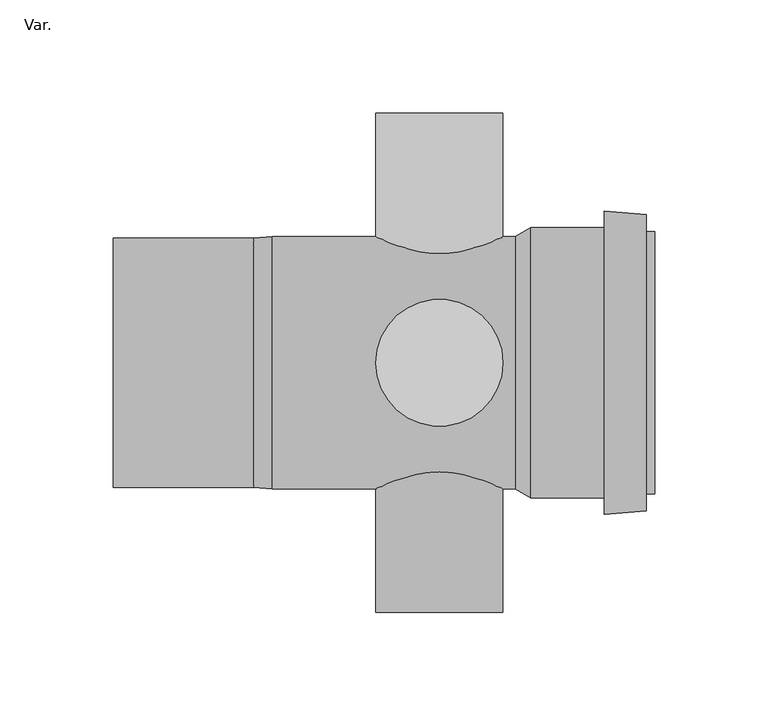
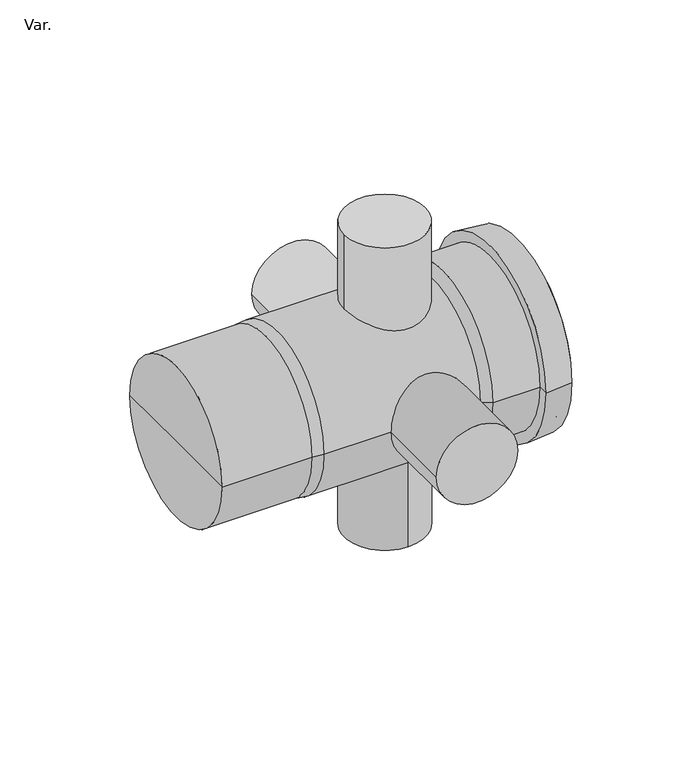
"""IFC4 building model written with IfcOpenShell, lengths in millimetres: pipe fitting geometry, NLRS_52_PIF_UN_HDPE 4-way riser_Akatherm : Var.."""

from ifc_helpers import new_model, si_unit, point, frame, origin, origin_with_axes, origin_2d, place, context, project, spatial, polyline, circle_curve, trimmed, segment, composite_curve, outline, extrude, source, transform, mapped, element, save
from ifc_brep_helpers import plane_surface, cylinder_surface, revolved_surface, advanced_brep


def var_f855ee73(model_context):
    return source(origin(), model_context, "Body", "SolidModel", [
        advanced_brep(
        [(91.2, -57.9, 0.0), (91.2, 57.9, 0.0), (94.9, 57.9, 0.0), (94.9, -57.9, 0.0), (91.2, -65.4, 0.0), (91.2, 65.4, 0.0), (72.6, -66.85, 0.0), (72.6, 66.85, 0.0), (72.6, -59.65, 0.0), (72.6, 59.65, 0.0), (40.3, -59.65, 0.0), (40.3, 59.65, 0.0), (-73.8, -55.75, 0.0), (-73.8, 55.75, 0.0), (33.5, 55.75, 0.0), (33.5, -55.75, 0.0), (-81.8, -55.0, 0.0), (-81.8, 55.0, 0.0), (-143.8, -55.0, 0.0), (-143.8, 55.0, 0.0), (-143.8, 0.0, 0.0), (94.9, 0.0, 0.0)],
        [
            (0, 1, circle_curve(frame((91.2, 0.0, 0.0), z_axis=(1.0, 0.0, 0.0), x_axis=(0.0, 1.0, 0.0)), 57.9)),
            (1, 2),
            (2, 3, circle_curve(frame((94.9, 0.0, 0.0), z_axis=(-1.0, 0.0, 0.0), x_axis=(0.0, 1.0, 0.0)), 57.9)),
            (3, 0),
            (1, 0, circle_curve(frame((91.2, 0.0, 0.0), z_axis=(1.0, 0.0, 0.0), x_axis=(0.0, 1.0, 0.0)), 57.9)),
            (3, 2, circle_curve(frame((94.9, 0.0, 0.0), z_axis=(-1.0, 0.0, 0.0), x_axis=(0.0, 1.0, 0.0)), 57.9)),
            (4, 5, circle_curve(frame((91.2, 0.0, 0.0), z_axis=(1.0, 0.0, 0.0), x_axis=(0.0, 1.0, 0.0)), 65.4)),
            (5, 1),
            (0, 4),
            (5, 4, circle_curve(frame((91.2, 0.0, 0.0), z_axis=(1.0, 0.0, 0.0), x_axis=(0.0, 1.0, 0.0)), 65.4)),
            (6, 7, circle_curve(frame((72.6, 0.0, 0.0), z_axis=(1.0, 0.0, 0.0), x_axis=(0.0, 1.0, 0.0)), 66.85)),
            (7, 5),
            (4, 6),
            (7, 6, circle_curve(frame((72.6, 0.0, 0.0), z_axis=(1.0, 0.0, 0.0), x_axis=(0.0, 1.0, 0.0)), 66.85)),
            (8, 9, circle_curve(frame((72.6, 0.0, 0.0), z_axis=(1.0, 0.0, 0.0), x_axis=(0.0, 1.0, 0.0)), 59.65)),
            (9, 7),
            (6, 8),
            (9, 8, circle_curve(frame((72.6, 0.0, 0.0), z_axis=(1.0, 0.0, 0.0), x_axis=(0.0, 1.0, 0.0)), 59.65)),
            (10, 11, circle_curve(frame((40.3, 0.0, 0.0), z_axis=(1.0, 0.0, 0.0), x_axis=(0.0, 1.0, 0.0)), 59.65)),
            (11, 9),
            (8, 10),
            (11, 10, circle_curve(frame((40.3, 0.0, 0.0), z_axis=(1.0, 0.0, 0.0), x_axis=(0.0, 1.0, 0.0)), 59.65)),
            (12, 13, circle_curve(frame((-73.8, 0.0, 0.0), z_axis=(1.0, 0.0, 0.0), x_axis=(0.0, 1.0, 0.0)), 55.75)),
            (13, 14),
            (14, 15, circle_curve(frame((33.5, 0.0, 0.0), z_axis=(-1.0, 0.0, 0.0), x_axis=(0.0, 1.0, 0.0)), 55.75)),
            (15, 12),
            (13, 12, circle_curve(frame((-73.8, 0.0, 0.0), z_axis=(1.0, 0.0, 0.0), x_axis=(0.0, 1.0, 0.0)), 55.75)),
            (15, 14, circle_curve(frame((33.5, 0.0, 0.0), z_axis=(-1.0, 0.0, 0.0), x_axis=(0.0, 1.0, 0.0)), 55.75)),
            (16, 17, circle_curve(frame((-81.8, 0.0, 0.0), z_axis=(1.0, 0.0, 0.0), x_axis=(0.0, 1.0, 0.0)), 55.0)),
            (17, 13),
            (12, 16),
            (17, 16, circle_curve(frame((-81.8, 0.0, 0.0), z_axis=(1.0, 0.0, 0.0), x_axis=(0.0, 1.0, 0.0)), 55.0)),
            (18, 19, circle_curve(frame((-143.8, 0.0, 0.0), z_axis=(1.0, 0.0, 0.0), x_axis=(0.0, 1.0, 0.0)), 55.0)),
            (19, 17),
            (16, 18),
            (19, 18, circle_curve(frame((-143.8, 0.0, 0.0), z_axis=(1.0, 0.0, 0.0), x_axis=(0.0, 1.0, 0.0)), 55.0)),
            (20, 19),
            (18, 20),
            (2, 21),
            (21, 3),
            (14, 11),
            (10, 15),
        ],
        [
            cylinder_surface(frame((59.9, 0.0, 0.0), z_axis=(-1.0, 0.0, 0.0), x_axis=(0.0, 1.0, 0.0)), 57.9),
            plane_surface(frame((91.2, 0.0, 0.0), z_axis=(1.0, 0.0, 0.0), x_axis=(0.0, 1.0, 0.0))),
            revolved_surface(polyline([(91.2, 65.4, 0.0), (72.6, 66.85, 0.0)]), (59.9, 0.0, 0.0), (-1.0, 0.0, 0.0)),
            plane_surface(frame((72.6, 0.0, 0.0), z_axis=(-1.0, 0.0, 0.0), x_axis=(0.0, 1.0, 0.0))),
            cylinder_surface(frame((59.9, 0.0, 0.0), z_axis=(-1.0, 0.0, 0.0), x_axis=(0.0, 1.0, 0.0)), 59.65),
            cylinder_surface(frame((59.9, 0.0, 0.0), z_axis=(-1.0, 0.0, 0.0), x_axis=(0.0, 1.0, 0.0)), 55.75),
            revolved_surface(polyline([(-73.8, 55.75, 0.0), (-81.8, 55.0, 0.0)]), (59.9, 0.0, 0.0), (-1.0, 0.0, 0.0)),
            cylinder_surface(frame((59.9, 0.0, 0.0), z_axis=(-1.0, 0.0, 0.0), x_axis=(0.0, 1.0, 0.0)), 55.0),
            plane_surface(frame((-143.8, 0.0, 0.0), z_axis=(-1.0, 0.0, 0.0), x_axis=(0.0, 1.0, 0.0))),
            plane_surface(frame((94.9, 0.0, 0.0), z_axis=(1.0, 0.0, 0.0), x_axis=(0.0, 1.0, 0.0))),
            revolved_surface(polyline([(40.3, 59.65, 0.0), (33.5, 55.75, 0.0)]), (59.9, 0.0, 0.0), (-1.0, 0.0, 0.0)),
        ],
        [
            (0, [[1, 2, 3, 4]]),
            (0, [[5, -4, 6, -2]]),
            (1, [[7, 8, -1, 9]]),
            (1, [[10, -9, -5, -8]]),
            (2, [[11, 12, -7, 13]]),
            (2, [[14, -13, -10, -12]]),
            (3, [[15, 16, -11, 17]]),
            (3, [[18, -17, -14, -16]]),
            (4, [[19, 20, -15, 21]]),
            (4, [[22, -21, -18, -20]]),
            (5, [[23, 24, 25, 26]]),
            (5, [[27, -26, 28, -24]]),
            (6, [[29, 30, -23, 31]]),
            (6, [[32, -31, -27, -30]]),
            (7, [[33, 34, -29, 35]]),
            (7, [[36, -35, -32, -34]]),
            (8, [[37, -33, 38]]),
            (8, [[-38, -36, -37]]),
            (9, [[-3, 39, 40]]),
            (9, [[-6, -40, -39]]),
            (10, [[-25, 41, -19, 42]]),
            (10, [[-28, -42, -22, -41]]),
        ],
    ),
        extrude(outline(composite_curve([segment(trimmed(circle_curve(origin_2d(), 28.0), [point((0.0, 28.0))], [point((0.0, -28.0))], False, "CARTESIAN"), True, "CONTINUOUS"), segment(trimmed(circle_curve(origin_2d(), 28.0), [point((0.0, -28.0))], [point((0.0, 28.0))], False, "CARTESIAN"), True, "CONTINUOUS")], self_intersect=False)), frame((0.0, 0.0, -110.1), z_axis=(0.0, 0.0, 1.0), x_axis=(1.0, 0.0, 0.0)), (0.0, 0.0, 1.0), 110.1),
        extrude(outline(composite_curve([segment(trimmed(circle_curve(origin_2d(), 28.0), [point((28.0, 0.0))], [point((-28.0, 0.0))], False, "CARTESIAN"), True, "CONTINUOUS"), segment(trimmed(circle_curve(origin_2d(), 28.0), [point((-28.0, 0.0))], [point((28.0, 0.0))], False, "CARTESIAN"), True, "CONTINUOUS")], self_intersect=False)), origin_with_axes(), (0.0, 0.0, 1.0), 110.1),
        extrude(outline(composite_curve([segment(trimmed(circle_curve(origin_2d(), 28.0), [point((0.0, -28.0))], [point((0.0, 28.0))], False, "CARTESIAN"), True, "CONTINUOUS"), segment(trimmed(circle_curve(origin_2d(), 28.0), [point((0.0, 28.0))], [point((0.0, -28.0))], False, "CARTESIAN"), True, "CONTINUOUS")], self_intersect=False)), frame((0.0, -110.1, 0.0), z_axis=(0.0, 1.0, 0.0), x_axis=(0.0, 0.0, 1.0)), (0.0, 0.0, 1.0), 110.1),
        extrude(outline(composite_curve([segment(trimmed(circle_curve(origin_2d(), 28.0), [point((0.0, 28.0))], [point((0.0, -28.0))], False, "CARTESIAN"), True, "CONTINUOUS"), segment(trimmed(circle_curve(origin_2d(), 28.0), [point((0.0, -28.0))], [point((0.0, 28.0))], False, "CARTESIAN"), True, "CONTINUOUS")], self_intersect=False)), frame((0.0, 0.0, 0.0), z_axis=(0.0, 1.0, 0.0), x_axis=(0.0, 0.0, 1.0)), (0.0, 0.0, 1.0), 110.1),
    ])


if __name__ == "__main__":
    model = new_model("IFC4")
    model_context = context("Model", 3, world=origin())
    ifc_project = project(units=[si_unit("LENGTHUNIT", "METRE", prefix="MILLI")], contexts=[model_context])
    site = spatial("IfcSite", under=ifc_project)
    building = spatial("IfcBuilding", under=site)
    placement = place(None, origin())
    var_shape = var_f855ee73(model_context)
    element("IfcPipeFitting", 1, ObjectType="NLRS_52_PIF_UN_HDPE 4-way riser_Akatherm : Var.", at=placement, inside=building, context=model_context, shape_type="MappedRepresentation", body=[
        mapped(var_shape, transform((0.0, 0.0, 0.0), x_axis=(1.0, 0.0, 0.0), y_axis=(0.0, 1.0, 0.0), z_axis=(0.0, 0.0, 1.0))),
    ])
    save(model, "model.ifc")
